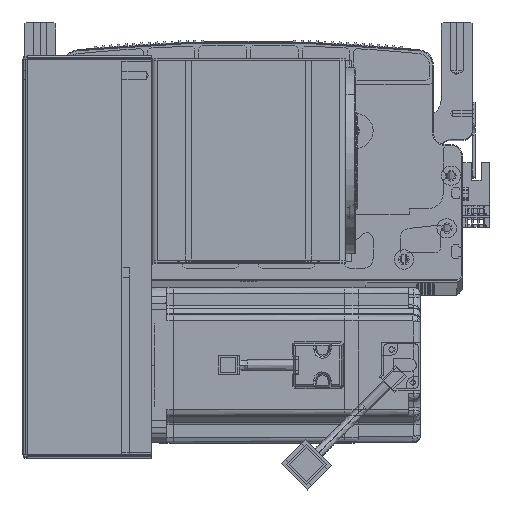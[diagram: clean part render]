
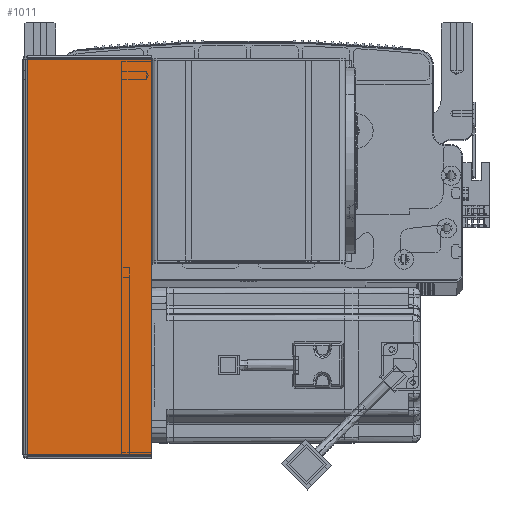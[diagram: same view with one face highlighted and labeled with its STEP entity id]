
A CAD part, top view. The second image highlights one B-rep face of the part: STEP entity #1011.
In plain terms, the highlighted planar face has unit normal (0, 0, 1) as drawn and (0, -1, 0) by its records, which use the part's own axes.
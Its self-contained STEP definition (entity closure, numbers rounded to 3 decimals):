
#1011 = ADVANCED_FACE ( 'NONE', ( #78024 ), #89676, .F. ) ;
#4154 = VERTEX_POINT ( 'NONE', #29233 ) ;
#9770 = LINE ( 'NONE', #87061, #33572 ) ;
#9858 = LINE ( 'NONE', #67028, #13632 ) ;
#13453 = CARTESIAN_POINT ( 'NONE',  ( 64.5, -1.5, 0. ) ) ;
#13632 = VECTOR ( 'NONE', #26135, 1000. ) ;
#14892 = EDGE_CURVE ( 'NONE', #4154, #57654, #89794, .T. ) ;
#17346 = CARTESIAN_POINT ( 'NONE',  ( 0., -1.5, 0. ) ) ;
#22718 = EDGE_CURVE ( 'NONE', #4154, #50381, #9858, .T. ) ;
#25331 = DIRECTION ( 'NONE',  ( -1., 0., 0. ) ) ;
#26135 = DIRECTION ( 'NONE',  ( 0., 0., 1. ) ) ;
#28722 = VERTEX_POINT ( 'NONE', #85409 ) ;
#29233 = CARTESIAN_POINT ( 'NONE',  ( 0.737, -1.5, -203.293 ) ) ;
#33572 = VECTOR ( 'NONE', #38858, 1000. ) ;
#36493 = VECTOR ( 'NONE', #69056, 1000. ) ;
#38858 = DIRECTION ( 'NONE',  ( 1., 0., 0. ) ) ;
#41498 = ORIENTED_EDGE ( 'NONE', *, *, #22718, .F. ) ;
#45670 = EDGE_LOOP ( 'NONE', ( #41498, #85214, #59434, #93523 ) ) ;
#49694 = CARTESIAN_POINT ( 'NONE',  ( 0.737, -1.5, -0.707 ) ) ;
#50381 = VERTEX_POINT ( 'NONE', #49694 ) ;
#51694 = AXIS2_PLACEMENT_3D ( 'NONE', #17346, #73231, #25331 ) ;
#55187 = EDGE_CURVE ( 'NONE', #57654, #28722, #69103, .T. ) ;
#57466 = EDGE_CURVE ( 'NONE', #50381, #28722, #9770, .T. ) ;
#57654 = VERTEX_POINT ( 'NONE', #93480 ) ;
#59434 = ORIENTED_EDGE ( 'NONE', *, *, #55187, .T. ) ;
#67028 = CARTESIAN_POINT ( 'NONE',  ( 0.737, -1.5, 0. ) ) ;
#69056 = DIRECTION ( 'NONE',  ( 0., 0., 1. ) ) ;
#69103 = LINE ( 'NONE', #13453, #36493 ) ;
#73231 = DIRECTION ( 'NONE',  ( 0., 1., 0. ) ) ;
#78024 = FACE_OUTER_BOUND ( 'NONE', #45670, .T. ) ;
#82009 = CARTESIAN_POINT ( 'NONE',  ( 0., -1.5, -203.293 ) ) ;
#85214 = ORIENTED_EDGE ( 'NONE', *, *, #14892, .T. ) ;
#85409 = CARTESIAN_POINT ( 'NONE',  ( 64.5, -1.5, -0.707 ) ) ;
#87061 = CARTESIAN_POINT ( 'NONE',  ( 0., -1.5, -0.707 ) ) ;
#89676 = PLANE ( 'NONE',  #51694 ) ;
#89794 = LINE ( 'NONE', #82009, #97261 ) ;
#90061 = DIRECTION ( 'NONE',  ( 1., 0., 0. ) ) ;
#93480 = CARTESIAN_POINT ( 'NONE',  ( 64.5, -1.5, -203.293 ) ) ;
#93523 = ORIENTED_EDGE ( 'NONE', *, *, #57466, .F. ) ;
#97261 = VECTOR ( 'NONE', #90061, 1000. ) ;
